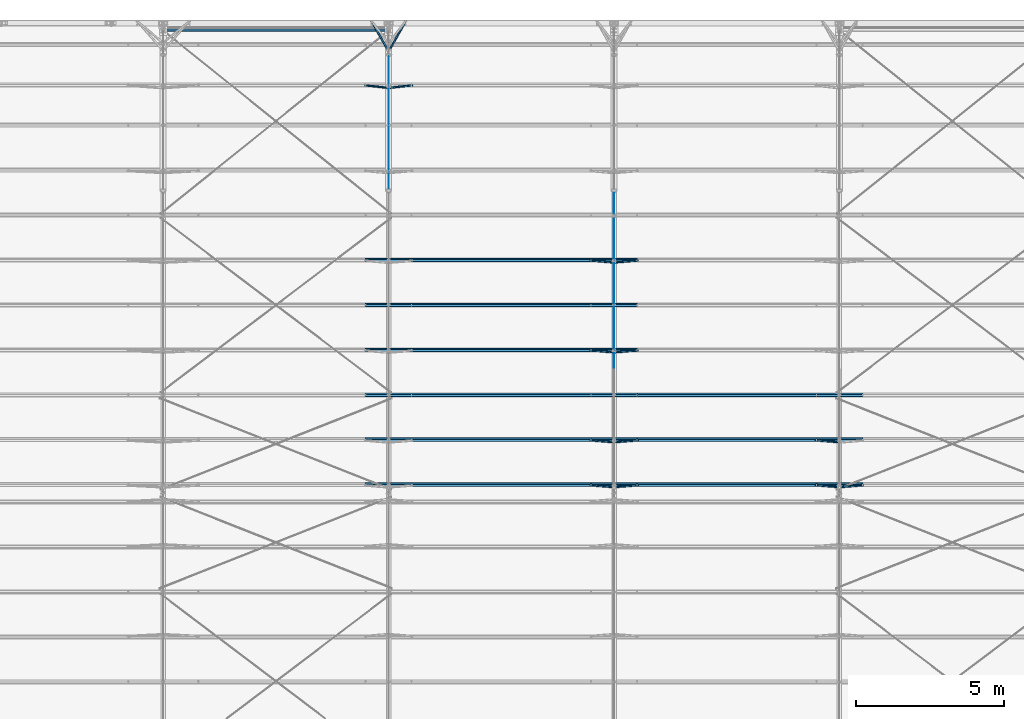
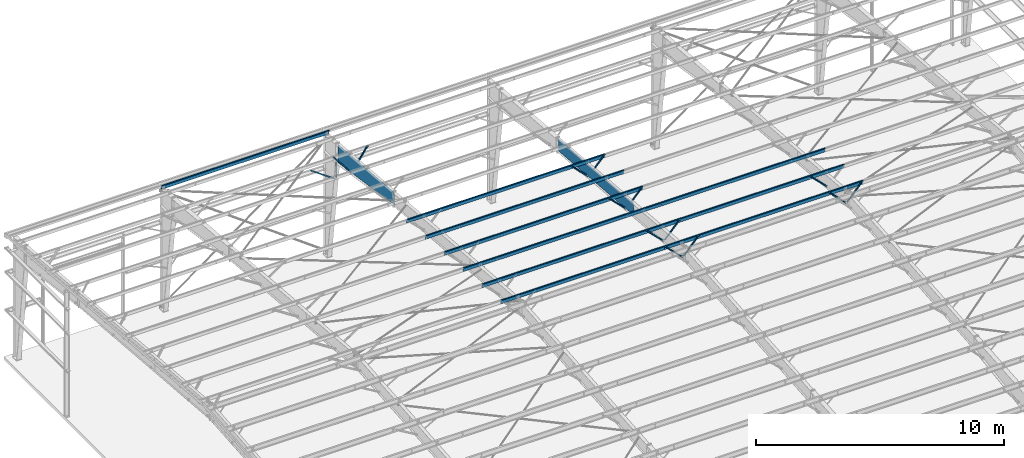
# One storey, part 14 of 185: 14 beams, 13 members, 27 elements without a shape of their own.
"""IFC2X3 building model written with IfcOpenShell, lengths in millimetres."""

from ifc_helpers import new_model, si_unit, frame, origin_with_axes, origin_2d_with_axis, place, context, subcontext, project, spatial, polyline, rectangle, outline, extrude, clip, halfspace, material, type_object, element, aggregate, save


model = new_model("IFC2X3")

# Units and contexts
model_context = context("Model", 3, precision=1e-05, world=origin_with_axes())
body_context = subcontext(model_context, "Body", "Model", "MODEL_VIEW")
ifc_project = project(units=[si_unit("LENGTHUNIT", "METRE", prefix="MILLI"), si_unit("AREAUNIT", "SQUARE_METRE"), si_unit("VOLUMEUNIT", "CUBIC_METRE"), si_unit("MASSUNIT", "GRAM", prefix="KILO"), si_unit("TIMEUNIT", "SECOND"), si_unit("PLANEANGLEUNIT", "RADIAN"), si_unit("SOLIDANGLEUNIT", "STERADIAN"), si_unit("THERMODYNAMICTEMPERATUREUNIT", "DEGREE_CELSIUS"), si_unit("LUMINOUSINTENSITYUNIT", "LUMEN")], contexts=[model_context])

# Site, building, storey
site_placement = place(None, origin_with_axes())
site = spatial("IfcSite", under=ifc_project, at=site_placement, Name="Undefined", CompositionType="ELEMENT")
building_placement = place(site_placement, origin_with_axes())
building = spatial("IfcBuilding", under=site, at=building_placement, Name="Undefined", CompositionType="ELEMENT")
storey_placement = place(building_placement, origin_with_axes())
storey = spatial("IfcBuildingStorey", under=building, at=storey_placement, Name="Undefined", CompositionType="ELEMENT", Elevation=0.0)

# Assembly, beam
assembly_1_placement = place(storey_placement, origin_with_axes())
assembly_1 = element("IfcElementAssembly", 1, at=assembly_1_placement, inside=storey, Name="Steel Assembly", AssemblyPlace="NOTDEFINED", PredefinedType="RIGID_FRAME")
ifc_material = material(Name="STEEL/55")
beam_type_1 = type_object("IfcBeamType", Name="8Z15", PredefinedType="NOTDEFINED")
beam_1_placement = place(assembly_1_placement, frame((22479.0, 23890.9879796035, 6670.13216897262), z_axis=(0.0, -0.0830454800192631, -0.996545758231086), x_axis=(-1.0, 0.0, 0.0)))
beam_1 = element("IfcBeam", 2, at=beam_1_placement, type_object=beam_type_1, material=ifc_material, Name="Purlin", ObjectType="8Z15", context=body_context, shape_type="Clipping", body=[
    clip(clip(extrude(outline(polyline([(-75.75, 87.0100021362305), (-63.5, 101.599998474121), (1.5900000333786, 101.599998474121), (1.5900000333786, -98.4199981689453), (62.0200004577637, -98.4199981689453), (73.3099975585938, -84.9700012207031), (75.7399978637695, -87.0100021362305), (63.5, -101.599998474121), (-1.5900000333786, -101.599998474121), (-1.5900000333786, 98.4199981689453), (-62.0200004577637, 98.4199981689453), (-73.3099975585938, 84.9700012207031), (-75.75, 87.0100021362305)])), frame((8420.1, 0.0, 0.0), z_axis=(-1.0, 0.0, 0.0), x_axis=(0.0, -1.0, 0.0)), (0.0, 0.0, 1.0), 9220.2), halfspace(frame((8420.1, 2.91402102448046e-09, -101.600000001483), z_axis=(-1.0, 0.0, 0.0), x_axis=(0.0, 0.0, 1.0)), True)), halfspace(frame((-800.1, 2.91402102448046e-09, -101.600000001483), z_axis=(-1.0, 0.0, 0.0), x_axis=(0.0, 0.0, 1.0)), False)),
])
aggregate(assembly_1, [beam_1])

assembly_2_placement = place(storey_placement, origin_with_axes())
assembly_2 = element("IfcElementAssembly", 3, at=assembly_2_placement, inside=storey, Name="Steel Assembly", AssemblyPlace="NOTDEFINED", PredefinedType="RIGID_FRAME")
beam_2_placement = place(assembly_2_placement, frame((22479.0, 22372.2522440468, 6796.69348052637), z_axis=(0.0, -0.0830454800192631, -0.996545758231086), x_axis=(-1.0, 0.0, 0.0)))
beam_2 = element("IfcBeam", 4, at=beam_2_placement, type_object=beam_type_1, material=ifc_material, Name="Purlin", ObjectType="8Z15", context=body_context, shape_type="Clipping", body=[
    clip(clip(extrude(outline(polyline([(-75.75, 87.0100021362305), (-63.5, 101.599998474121), (1.5900000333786, 101.599998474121), (1.5900000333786, -98.4199981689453), (62.0200004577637, -98.4199981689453), (73.3099975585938, -84.9700012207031), (75.7399978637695, -87.0100021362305), (63.5, -101.599998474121), (-1.5900000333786, -101.599998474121), (-1.5900000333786, 98.4199981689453), (-62.0200004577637, 98.4199981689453), (-73.3099975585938, 84.9700012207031), (-75.75, 87.0100021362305)])), frame((8420.1, 0.0, 0.0), z_axis=(-1.0, 0.0, 0.0), x_axis=(0.0, -1.0, 0.0)), (0.0, 0.0, 1.0), 9220.2), halfspace(frame((8420.1, 2.91402102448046e-09, -101.600000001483), z_axis=(-1.0, 0.0, 0.0), x_axis=(0.0, 0.0, 1.0)), True)), halfspace(frame((-800.1, 2.91402102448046e-09, -101.600000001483), z_axis=(-1.0, 0.0, 0.0), x_axis=(0.0, 0.0, 1.0)), False)),
])
aggregate(assembly_2, [beam_2])

assembly_3_placement = place(storey_placement, origin_with_axes())
assembly_3 = element("IfcElementAssembly", 5, at=assembly_3_placement, inside=storey, Name="Steel Assembly", AssemblyPlace="NOTDEFINED", PredefinedType="RIGID_FRAME")
beam_3_placement = place(assembly_3_placement, frame((22479.0, 20853.51650849, 6923.25479208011), z_axis=(0.0, -0.0830454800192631, -0.996545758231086), x_axis=(-1.0, 0.0, 0.0)))
beam_3 = element("IfcBeam", 6, at=beam_3_placement, type_object=beam_type_1, material=ifc_material, Name="Purlin", ObjectType="8Z15", context=body_context, shape_type="Clipping", body=[
    clip(clip(extrude(outline(polyline([(-75.75, 87.0100021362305), (-63.5, 101.599998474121), (1.5900000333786, 101.599998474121), (1.5900000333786, -98.4199981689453), (62.0200004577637, -98.4199981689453), (73.3099975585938, -84.9700012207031), (75.7399978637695, -87.0100021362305), (63.5, -101.599998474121), (-1.5900000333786, -101.599998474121), (-1.5900000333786, 98.4199981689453), (-62.0200004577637, 98.4199981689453), (-73.3099975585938, 84.9700012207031), (-75.75, 87.0100021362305)])), frame((8420.1, 0.0, 0.0), z_axis=(-1.0, 0.0, 0.0), x_axis=(0.0, -1.0, 0.0)), (0.0, 0.0, 1.0), 9220.2), halfspace(frame((8420.1, 2.91402102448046e-09, -101.600000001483), z_axis=(-1.0, 0.0, 0.0), x_axis=(0.0, 0.0, 1.0)), True)), halfspace(frame((-800.1, 2.91402102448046e-09, -101.600000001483), z_axis=(-1.0, 0.0, 0.0), x_axis=(0.0, 0.0, 1.0)), False)),
])
aggregate(assembly_3, [beam_3])

assembly_4_placement = place(storey_placement, origin_with_axes())
assembly_4 = element("IfcElementAssembly", 7, at=assembly_4_placement, inside=storey, Name="Steel Assembly", AssemblyPlace="NOTDEFINED", PredefinedType="RIGID_FRAME")
beam_4_placement = place(assembly_4_placement, frame((22479.0, 19334.7807729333, 7049.81610363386), z_axis=(0.0, -0.0830454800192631, -0.996545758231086), x_axis=(-1.0, 0.0, 0.0)))
beam_4 = element("IfcBeam", 8, at=beam_4_placement, type_object=beam_type_1, material=ifc_material, Name="Purlin", ObjectType="8Z15", context=body_context, shape_type="Clipping", body=[
    clip(clip(extrude(outline(polyline([(-75.75, 87.0100021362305), (-63.5, 101.599998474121), (1.5900000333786, 101.599998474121), (1.5900000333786, -98.4199981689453), (62.0200004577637, -98.4199981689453), (73.3099975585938, -84.9700012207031), (75.7399978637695, -87.0100021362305), (63.5, -101.599998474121), (-1.5900000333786, -101.599998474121), (-1.5900000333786, 98.4199981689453), (-62.0200004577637, 98.4199981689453), (-73.3099975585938, 84.9700012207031), (-75.75, 87.0100021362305)])), frame((8420.1, 0.0, 0.0), z_axis=(-1.0, 0.0, 0.0), x_axis=(0.0, -1.0, 0.0)), (0.0, 0.0, 1.0), 9220.2), halfspace(frame((8420.1, 2.91402102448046e-09, -101.600000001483), z_axis=(-1.0, 0.0, 0.0), x_axis=(0.0, 0.0, 1.0)), True)), halfspace(frame((-800.1, 2.91402102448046e-09, -101.600000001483), z_axis=(-1.0, 0.0, 0.0), x_axis=(0.0, 0.0, 1.0)), False)),
])
aggregate(assembly_4, [beam_4])

assembly_5_placement = place(storey_placement, origin_with_axes())
assembly_5 = element("IfcElementAssembly", 9, at=assembly_5_placement, inside=storey, Name="Steel Assembly", AssemblyPlace="NOTDEFINED", PredefinedType="RIGID_FRAME")
beam_5_placement = place(assembly_5_placement, frame((22479.0, 17816.0450373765, 7176.3774151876), z_axis=(0.0, -0.0830454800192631, -0.996545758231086), x_axis=(-1.0, 0.0, 0.0)))
beam_5 = element("IfcBeam", 10, at=beam_5_placement, type_object=beam_type_1, material=ifc_material, Name="Purlin", ObjectType="8Z15", context=body_context, shape_type="Clipping", body=[
    clip(clip(extrude(outline(polyline([(-75.75, 87.0100021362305), (-63.5, 101.599998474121), (1.5900000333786, 101.599998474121), (1.5900000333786, -98.4199981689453), (62.0200004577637, -98.4199981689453), (73.3099975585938, -84.9700012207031), (75.7399978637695, -87.0100021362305), (63.5, -101.599998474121), (-1.5900000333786, -101.599998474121), (-1.5900000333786, 98.4199981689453), (-62.0200004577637, 98.4199981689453), (-73.3099975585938, 84.9700012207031), (-75.75, 87.0100021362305)])), frame((8420.1, 0.0, 0.0), z_axis=(-1.0, 0.0, 0.0), x_axis=(0.0, -1.0, 0.0)), (0.0, 0.0, 1.0), 9220.2), halfspace(frame((8420.1, 2.91402102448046e-09, -101.600000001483), z_axis=(-1.0, 0.0, 0.0), x_axis=(0.0, 0.0, 1.0)), True)), halfspace(frame((-800.1, 2.91402102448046e-09, -101.600000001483), z_axis=(-1.0, 0.0, 0.0), x_axis=(0.0, 0.0, 1.0)), False)),
])
aggregate(assembly_5, [beam_5])

assembly_6_placement = place(storey_placement, origin_with_axes())
assembly_6 = element("IfcElementAssembly", 11, at=assembly_6_placement, inside=storey, Name="Steel Assembly", AssemblyPlace="NOTDEFINED", PredefinedType="RIGID_FRAME")
beam_6_placement = place(assembly_6_placement, frame((22479.0, 16297.3093018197, 7302.93872674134), z_axis=(0.0, -0.0830454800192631, -0.996545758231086), x_axis=(-1.0, 0.0, 0.0)))
beam_6 = element("IfcBeam", 12, at=beam_6_placement, type_object=beam_type_1, material=ifc_material, Name="Purlin", ObjectType="8Z15", context=body_context, shape_type="Clipping", body=[
    clip(clip(extrude(outline(polyline([(-75.75, 87.0100021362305), (-63.5, 101.599998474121), (1.5900000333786, 101.599998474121), (1.5900000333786, -98.4199981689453), (62.0200004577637, -98.4199981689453), (73.3099975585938, -84.9700012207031), (75.7399978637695, -87.0100021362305), (63.5, -101.599998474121), (-1.5900000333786, -101.599998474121), (-1.5900000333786, 98.4199981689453), (-62.0200004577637, 98.4199981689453), (-73.3099975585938, 84.9700012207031), (-75.75, 87.0100021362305)])), frame((8420.1, 0.0, 0.0), z_axis=(-1.0, 0.0, 0.0), x_axis=(0.0, -1.0, 0.0)), (0.0, 0.0, 1.0), 9220.2), halfspace(frame((8420.1, 2.91402102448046e-09, -101.600000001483), z_axis=(-1.0, 0.0, 0.0), x_axis=(0.0, 0.0, 1.0)), True)), halfspace(frame((-800.1, 2.91402102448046e-09, -101.600000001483), z_axis=(-1.0, 0.0, 0.0), x_axis=(0.0, 0.0, 1.0)), False)),
])
aggregate(assembly_6, [beam_6])

assembly_7_placement = place(storey_placement, origin_with_axes())
assembly_7 = element("IfcElementAssembly", 13, at=assembly_7_placement, inside=storey, Name="Steel Assembly", AssemblyPlace="NOTDEFINED", PredefinedType="RIGID_FRAME")
beam_7_placement = place(assembly_7_placement, frame((30099.0, 19334.7807729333, 7049.81610363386), z_axis=(0.0, -0.0830454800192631, -0.996545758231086), x_axis=(-1.0, 0.0, 0.0)))
beam_7 = element("IfcBeam", 14, at=beam_7_placement, type_object=beam_type_1, material=ifc_material, Name="Purlin", ObjectType="8Z15", context=body_context, shape_type="Clipping", body=[
    clip(clip(extrude(outline(polyline([(-75.75, 87.0100021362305), (-63.5, 101.599998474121), (1.5900000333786, 101.599998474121), (1.5900000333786, -98.4199981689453), (62.0200004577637, -98.4199981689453), (73.3099975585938, -84.9700012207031), (75.7399978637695, -87.0100021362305), (63.5, -101.599998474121), (-1.5900000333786, -101.599998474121), (-1.5900000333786, 98.4199981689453), (-62.0200004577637, 98.4199981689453), (-73.3099975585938, 84.9700012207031), (-75.75, 87.0100021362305)])), frame((8420.1, 0.0, 0.0), z_axis=(-1.0, 0.0, 0.0), x_axis=(0.0, -1.0, 0.0)), (0.0, 0.0, 1.0), 9220.2), halfspace(frame((8420.1, 2.91402102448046e-09, -101.600000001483), z_axis=(-1.0, 0.0, 0.0), x_axis=(0.0, 0.0, 1.0)), True)), halfspace(frame((-800.1, 2.91402102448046e-09, -101.600000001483), z_axis=(-1.0, 0.0, 0.0), x_axis=(0.0, 0.0, 1.0)), False)),
])
aggregate(assembly_7, [beam_7])

assembly_8_placement = place(storey_placement, origin_with_axes())
assembly_8 = element("IfcElementAssembly", 15, at=assembly_8_placement, inside=storey, Name="Steel Assembly", AssemblyPlace="NOTDEFINED", PredefinedType="RIGID_FRAME")
beam_8_placement = place(assembly_8_placement, frame((30099.0, 17816.0450373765, 7176.3774151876), z_axis=(0.0, -0.0830454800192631, -0.996545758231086), x_axis=(-1.0, 0.0, 0.0)))
beam_8 = element("IfcBeam", 16, at=beam_8_placement, type_object=beam_type_1, material=ifc_material, Name="Purlin", ObjectType="8Z15", context=body_context, shape_type="Clipping", body=[
    clip(clip(extrude(outline(polyline([(-75.75, 87.0100021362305), (-63.5, 101.599998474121), (1.5900000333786, 101.599998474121), (1.5900000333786, -98.4199981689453), (62.0200004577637, -98.4199981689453), (73.3099975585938, -84.9700012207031), (75.7399978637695, -87.0100021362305), (63.5, -101.599998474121), (-1.5900000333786, -101.599998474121), (-1.5900000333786, 98.4199981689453), (-62.0200004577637, 98.4199981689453), (-73.3099975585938, 84.9700012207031), (-75.75, 87.0100021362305)])), frame((8420.1, 0.0, 0.0), z_axis=(-1.0, 0.0, 0.0), x_axis=(0.0, -1.0, 0.0)), (0.0, 0.0, 1.0), 9220.2), halfspace(frame((8420.1, 2.91402102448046e-09, -101.600000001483), z_axis=(-1.0, 0.0, 0.0), x_axis=(0.0, 0.0, 1.0)), True)), halfspace(frame((-800.1, 2.91402102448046e-09, -101.600000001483), z_axis=(-1.0, 0.0, 0.0), x_axis=(0.0, 0.0, 1.0)), False)),
])
aggregate(assembly_8, [beam_8])

assembly_9_placement = place(storey_placement, origin_with_axes())
assembly_9 = element("IfcElementAssembly", 17, at=assembly_9_placement, inside=storey, Name="Steel Assembly", AssemblyPlace="NOTDEFINED", PredefinedType="RIGID_FRAME")
beam_9_placement = place(assembly_9_placement, frame((30099.0, 16297.3093018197, 7302.93872674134), z_axis=(0.0, -0.0830454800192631, -0.996545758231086), x_axis=(-1.0, 0.0, 0.0)))
beam_9 = element("IfcBeam", 18, at=beam_9_placement, type_object=beam_type_1, material=ifc_material, Name="Purlin", ObjectType="8Z15", context=body_context, shape_type="Clipping", body=[
    clip(clip(extrude(outline(polyline([(-75.75, 87.0100021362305), (-63.5, 101.599998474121), (1.5900000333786, 101.599998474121), (1.5900000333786, -98.4199981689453), (62.0200004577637, -98.4199981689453), (73.3099975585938, -84.9700012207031), (75.7399978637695, -87.0100021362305), (63.5, -101.599998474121), (-1.5900000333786, -101.599998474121), (-1.5900000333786, 98.4199981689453), (-62.0200004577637, 98.4199981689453), (-73.3099975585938, 84.9700012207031), (-75.75, 87.0100021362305)])), frame((8420.1, 0.0, 0.0), z_axis=(-1.0, 0.0, 0.0), x_axis=(0.0, -1.0, 0.0)), (0.0, 0.0, 1.0), 9220.2), halfspace(frame((8420.1, 2.91402102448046e-09, -101.600000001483), z_axis=(-1.0, 0.0, 0.0), x_axis=(0.0, 0.0, 1.0)), True)), halfspace(frame((-800.1, 2.91402102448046e-09, -101.600000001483), z_axis=(-1.0, 0.0, 0.0), x_axis=(0.0, 0.0, 1.0)), False)),
])
aggregate(assembly_9, [beam_9])

assembly_10_placement = place(storey_placement, origin_with_axes())
assembly_10 = element("IfcElementAssembly", 19, at=assembly_10_placement, inside=storey, Name="Steel Assembly", AssemblyPlace="NOTDEFINED", PredefinedType="RIGID_FRAME")
beam_type_2 = type_object("IfcBeamType", Name="FB-", PredefinedType="NOTDEFINED")
beam_10_placement = place(assembly_10_placement, frame((14915.5017799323, 30986.7973037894, 4165.6), z_axis=(-0.871364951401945, 0.490635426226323, 0.0), x_axis=(0.490635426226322, 0.871364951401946, 0.0)))
beam_10 = element("IfcBeam", 20, at=beam_10_placement, type_object=beam_type_2, material=ifc_material, Name="2X2 FLANGE BRACE X 60", ObjectType="FB-", context=body_context, shape_type="SweptSolid", body=[
    extrude(outline(polyline([(1.5900000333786, 1.59000003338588), (50.7999992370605, 1.59000003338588), (50.7999992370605, 7.27595761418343e-12), (0.0, 0.0), (0.0, 50.7999992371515), (1.5900000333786, 50.7999992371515), (1.5900000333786, 1.59000003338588)])), frame((1120.16580962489, 9.09494701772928e-13, 0.0), z_axis=(-1.0, 0.0, 0.0), x_axis=(0.0, -1.0, 0.0)), (0.0, 0.0, 1.0), 1120.2),
])
aggregate(assembly_10, [beam_10])

assembly_11_placement = place(storey_placement, origin_with_axes())
assembly_11 = element("IfcElementAssembly", 21, at=assembly_11_placement, inside=storey, Name="Steel Assembly", AssemblyPlace="NOTDEFINED", PredefinedType="RIGID_FRAME")
beam_11_placement = place(assembly_11_placement, frame((14802.498220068, 30986.7973037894, 4165.59999999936), z_axis=(0.0, 0.0, 1.0), x_axis=(-0.490635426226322, 0.871364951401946, 0.0)))
beam_11 = element("IfcBeam", 22, at=beam_11_placement, type_object=beam_type_2, material=ifc_material, Name="2X2 FLANGE BRACE X 60", ObjectType="FB-", context=body_context, shape_type="SweptSolid", body=[
    extrude(outline(polyline([(1.5900000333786, 1.59000003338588), (50.7999992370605, 1.59000003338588), (50.7999992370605, 7.27595761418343e-12), (0.0, 0.0), (0.0, 50.7999992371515), (1.5900000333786, 50.7999992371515), (1.5900000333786, 1.59000003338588)])), frame((1120.16580962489, 9.09494701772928e-13, 0.0), z_axis=(-1.0, 0.0, 0.0), x_axis=(0.0, -1.0, 0.0)), (0.0, 0.0, 1.0), 1120.2),
])
aggregate(assembly_11, [beam_11])

# Assembly, member
assembly_12_placement = place(storey_placement, origin_with_axes())
assembly_12 = element("IfcElementAssembly", 23, at=assembly_12_placement, inside=storey, Name="Steel Assembly", AssemblyPlace="NOTDEFINED", PredefinedType="RIGID_FRAME")
member_type = type_object("IfcMemberType", Name="FB-", PredefinedType="NOTDEFINED")
member_1_placement = place(assembly_12_placement, frame((22524.6857108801, 23833.292704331, 5977.78886512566), z_axis=(-0.697745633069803, 0.0594892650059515, 0.713871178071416), x_axis=(0.716345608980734, 0.0579446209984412, 0.6953354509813)))
member_1 = element("IfcMember", 24, at=member_1_placement, type_object=member_type, material=ifc_material, Name="2X2 FLANGE BRACE X 48", ObjectType="FB-", context=body_context, shape_type="SweptSolid", body=[
    extrude(outline(polyline([(1.5900000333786, 1.59000003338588), (50.7999992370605, 1.59000003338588), (50.7999992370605, 7.27595761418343e-12), (0.0, 0.0), (0.0, 50.7999992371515), (1.5900000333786, 50.7999992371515), (1.5900000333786, 1.59000003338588)])), frame((1067.82563693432, 1.82639893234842e-12, 1.75971317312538e-12), z_axis=(-1.0, 0.0, 0.0), x_axis=(0.0, -1.0, 0.0)), (0.0, 0.0, 1.0), 1067.8),
])
aggregate(assembly_12, [member_1])

assembly_13_placement = place(storey_placement, origin_with_axes())
assembly_13 = element("IfcElementAssembly", 25, at=assembly_13_placement, inside=storey, Name="Steel Assembly", AssemblyPlace="NOTDEFINED", PredefinedType="RIGID_FRAME")
member_2_placement = place(assembly_13_placement, frame((22524.6857108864, 20795.8212332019, 6230.91148772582), z_axis=(-0.697745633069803, 0.0594892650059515, 0.713871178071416), x_axis=(0.716345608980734, 0.0579446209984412, 0.6953354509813)))
member_2 = element("IfcMember", 26, at=member_2_placement, type_object=member_type, material=ifc_material, Name="2X2 FLANGE BRACE X 48", ObjectType="FB-", context=body_context, shape_type="SweptSolid", body=[
    extrude(outline(polyline([(1.5900000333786, 1.59000003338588), (50.7999992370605, 1.59000003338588), (50.7999992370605, 7.27595761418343e-12), (0.0, 0.0), (0.0, 50.7999992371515), (1.5900000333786, 50.7999992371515), (1.5900000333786, 1.59000003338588)])), frame((1067.82563693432, 1.82639893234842e-12, 1.75971317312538e-12), z_axis=(-1.0, 0.0, 0.0), x_axis=(0.0, -1.0, 0.0)), (0.0, 0.0, 1.0), 1067.8),
])
aggregate(assembly_13, [member_2])

assembly_14_placement = place(storey_placement, origin_with_axes())
assembly_14 = element("IfcElementAssembly", 27, at=assembly_14_placement, inside=storey, Name="Steel Assembly", AssemblyPlace="NOTDEFINED", PredefinedType="RIGID_FRAME")
member_3_placement = place(assembly_14_placement, frame((22524.6857108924, 17758.3497620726, 6484.0341103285), z_axis=(-0.697745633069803, 0.0594892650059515, 0.713871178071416), x_axis=(0.716345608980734, 0.0579446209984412, 0.6953354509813)))
member_3 = element("IfcMember", 28, at=member_3_placement, type_object=member_type, material=ifc_material, Name="2X2 FLANGE BRACE X 48", ObjectType="FB-", context=body_context, shape_type="SweptSolid", body=[
    extrude(outline(polyline([(1.5900000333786, 1.59000003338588), (50.7999992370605, 1.59000003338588), (50.7999992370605, 7.27595761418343e-12), (0.0, 0.0), (0.0, 50.7999992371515), (1.5900000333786, 50.7999992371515), (1.5900000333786, 1.59000003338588)])), frame((1067.82563693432, 1.82639893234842e-12, 1.75971317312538e-12), z_axis=(-1.0, 0.0, 0.0), x_axis=(0.0, -1.0, 0.0)), (0.0, 0.0, 1.0), 1067.8),
])
aggregate(assembly_14, [member_3])

assembly_15_placement = place(storey_placement, origin_with_axes())
assembly_15 = element("IfcElementAssembly", 29, at=assembly_15_placement, inside=storey, Name="Steel Assembly", AssemblyPlace="NOTDEFINED", PredefinedType="RIGID_FRAME")
member_4_placement = place(assembly_15_placement, frame((22524.6857108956, 16239.6140265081, 6610.59542162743), z_axis=(-0.697745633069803, 0.0594892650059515, 0.713871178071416), x_axis=(0.716345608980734, 0.0579446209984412, 0.6953354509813)))
member_4 = element("IfcMember", 30, at=member_4_placement, type_object=member_type, material=ifc_material, Name="2X2 FLANGE BRACE X 48", ObjectType="FB-", context=body_context, shape_type="SweptSolid", body=[
    extrude(outline(polyline([(1.5900000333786, 1.59000003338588), (50.7999992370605, 1.59000003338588), (50.7999992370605, 7.27595761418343e-12), (0.0, 0.0), (0.0, 50.7999992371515), (1.5900000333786, 50.7999992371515), (1.5900000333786, 1.59000003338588)])), frame((1067.82563693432, 1.82639893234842e-12, 1.75971317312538e-12), z_axis=(-1.0, 0.0, 0.0), x_axis=(0.0, -1.0, 0.0)), (0.0, 0.0, 1.0), 1067.8),
])
aggregate(assembly_15, [member_4])

assembly_16_placement = place(storey_placement, origin_with_axes())
assembly_16 = element("IfcElementAssembly", 31, at=assembly_16_placement, inside=storey, Name="Steel Assembly", AssemblyPlace="NOTDEFINED", PredefinedType="RIGID_FRAME")
member_5_placement = place(assembly_16_placement, frame((30144.6857108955, 16239.6140265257, 6610.59542169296), z_axis=(-0.697745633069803, 0.0594892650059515, 0.713871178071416), x_axis=(0.716345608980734, 0.0579446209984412, 0.6953354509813)))
member_5 = element("IfcMember", 32, at=member_5_placement, type_object=member_type, material=ifc_material, Name="2X2 FLANGE BRACE X 48", ObjectType="FB-", context=body_context, shape_type="SweptSolid", body=[
    extrude(outline(polyline([(1.5900000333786, 1.59000003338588), (50.7999992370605, 1.59000003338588), (50.7999992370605, 7.27595761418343e-12), (0.0, 0.0), (0.0, 50.7999992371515), (1.5900000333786, 50.7999992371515), (1.5900000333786, 1.59000003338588)])), frame((1067.82563693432, 1.82639893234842e-12, 1.75971317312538e-12), z_axis=(-1.0, 0.0, 0.0), x_axis=(0.0, -1.0, 0.0)), (0.0, 0.0, 1.0), 1067.8),
])
aggregate(assembly_16, [member_5])

assembly_17_placement = place(storey_placement, origin_with_axes())
assembly_17 = element("IfcElementAssembly", 33, at=assembly_17_placement, inside=storey, Name="Steel Assembly", AssemblyPlace="NOTDEFINED", PredefinedType="RIGID_FRAME")
member_6_placement = place(assembly_17_placement, frame((22433.3142891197, 23833.2927043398, 5977.78886512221), z_axis=(0.0, -0.996545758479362, 0.0830454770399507), x_axis=(-0.716345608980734, 0.0579446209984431, 0.6953354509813)))
member_6 = element("IfcMember", 34, at=member_6_placement, type_object=member_type, material=ifc_material, Name="2X2 FLANGE BRACE X 48", ObjectType="FB-", context=body_context, shape_type="SweptSolid", body=[
    extrude(outline(polyline([(1.5900000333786, 1.59000003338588), (50.7999992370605, 1.59000003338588), (50.7999992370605, 7.27595761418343e-12), (0.0, 0.0), (0.0, 50.7999992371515), (1.5900000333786, 50.7999992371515), (1.5900000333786, 1.59000003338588)])), frame((1067.82563693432, 1.82639893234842e-12, 1.75971317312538e-12), z_axis=(-1.0, 0.0, 0.0), x_axis=(0.0, -1.0, 0.0)), (0.0, 0.0, 1.0), 1067.8),
])
aggregate(assembly_17, [member_6])

assembly_18_placement = place(storey_placement, origin_with_axes())
assembly_18 = element("IfcElementAssembly", 35, at=assembly_18_placement, inside=storey, Name="Steel Assembly", AssemblyPlace="NOTDEFINED", PredefinedType="RIGID_FRAME")
member_7_placement = place(assembly_18_placement, frame((22433.3142891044, 16239.614026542, 6610.59542160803), z_axis=(0.0, -0.996545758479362, 0.0830454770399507), x_axis=(-0.716345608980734, 0.0579446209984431, 0.6953354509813)))
member_7 = element("IfcMember", 36, at=member_7_placement, type_object=member_type, material=ifc_material, Name="2X2 FLANGE BRACE X 48", ObjectType="FB-", context=body_context, shape_type="SweptSolid", body=[
    extrude(outline(polyline([(1.5900000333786, 1.59000003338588), (50.7999992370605, 1.59000003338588), (50.7999992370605, 7.27595761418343e-12), (0.0, 0.0), (0.0, 50.7999992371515), (1.5900000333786, 50.7999992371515), (1.5900000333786, 1.59000003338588)])), frame((1067.82563693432, 1.82639893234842e-12, 1.75971317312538e-12), z_axis=(-1.0, 0.0, 0.0), x_axis=(0.0, -1.0, 0.0)), (0.0, 0.0, 1.0), 1067.8),
])
aggregate(assembly_18, [member_7])

assembly_19_placement = place(storey_placement, origin_with_axes())
assembly_19 = element("IfcElementAssembly", 37, at=assembly_19_placement, inside=storey, Name="Steel Assembly", AssemblyPlace="NOTDEFINED", PredefinedType="RIGID_FRAME")
member_8_placement = place(assembly_19_placement, frame((22433.3142891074, 17758.3497621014, 6484.03411031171), z_axis=(0.0, -0.996545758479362, 0.0830454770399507), x_axis=(-0.716345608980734, 0.0579446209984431, 0.6953354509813)))
member_8 = element("IfcMember", 38, at=member_8_placement, type_object=member_type, material=ifc_material, Name="2X2 FLANGE BRACE X 48", ObjectType="FB-", context=body_context, shape_type="SweptSolid", body=[
    extrude(outline(polyline([(1.5900000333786, 1.59000003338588), (50.7999992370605, 1.59000003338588), (50.7999992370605, 7.27595761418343e-12), (0.0, 0.0), (0.0, 50.7999992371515), (1.5900000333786, 50.7999992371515), (1.5900000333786, 1.59000003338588)])), frame((1067.82563693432, 1.82639893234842e-12, 1.75971317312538e-12), z_axis=(-1.0, 0.0, 0.0), x_axis=(0.0, -1.0, 0.0)), (0.0, 0.0, 1.0), 1067.8),
])
aggregate(assembly_19, [member_8])

assembly_20_placement = place(storey_placement, origin_with_axes())
assembly_20 = element("IfcElementAssembly", 39, at=assembly_20_placement, inside=storey, Name="Steel Assembly", AssemblyPlace="NOTDEFINED", PredefinedType="RIGID_FRAME")
member_9_placement = place(assembly_20_placement, frame((22433.3142891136, 20795.8212332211, 6230.91148771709), z_axis=(0.0, -0.996545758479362, 0.0830454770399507), x_axis=(-0.716345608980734, 0.0579446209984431, 0.6953354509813)))
member_9 = element("IfcMember", 40, at=member_9_placement, type_object=member_type, material=ifc_material, Name="2X2 FLANGE BRACE X 48", ObjectType="FB-", context=body_context, shape_type="SweptSolid", body=[
    extrude(outline(polyline([(1.5900000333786, 1.59000003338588), (50.7999992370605, 1.59000003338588), (50.7999992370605, 7.27595761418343e-12), (0.0, 0.0), (0.0, 50.7999992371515), (1.5900000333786, 50.7999992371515), (1.5900000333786, 1.59000003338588)])), frame((1067.82563693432, 1.82639893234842e-12, 1.75971317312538e-12), z_axis=(-1.0, 0.0, 0.0), x_axis=(0.0, -1.0, 0.0)), (0.0, 0.0, 1.0), 1067.8),
])
aggregate(assembly_20, [member_9])

assembly_21_placement = place(storey_placement, origin_with_axes())
assembly_21 = element("IfcElementAssembly", 41, at=assembly_21_placement, inside=storey, Name="Steel Assembly", AssemblyPlace="NOTDEFINED", PredefinedType="RIGID_FRAME")
member_10_placement = place(assembly_21_placement, frame((14910.4101776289, 29737.0414636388, 5252.35243777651), z_axis=(-0.791478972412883, 0.0507570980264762, 0.609085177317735), x_axis=(0.611196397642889, 0.065728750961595, 0.78874501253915)))
member_10 = element("IfcMember", 42, at=member_10_placement, type_object=member_type, material=ifc_material, Name="2X2 FLANGE BRACE X 60", ObjectType="FB-", context=body_context, shape_type="SweptSolid", body=[
    extrude(outline(polyline([(1.5900000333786, 1.59000003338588), (50.7999992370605, 1.59000003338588), (50.7999992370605, 7.27595761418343e-12), (0.0, 0.0), (0.0, 50.7999992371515), (1.5900000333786, 50.7999992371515), (1.5900000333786, 1.59000003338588)])), frame((1241.69216231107, 1.72319403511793e-14, 8.40566940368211e-13), z_axis=(-1.0, 0.0, 0.0), x_axis=(0.0, -1.0, 0.0)), (0.0, 0.0, 1.0), 1241.7),
])
aggregate(assembly_21, [member_10])

assembly_22_placement = place(storey_placement, origin_with_axes())
assembly_22 = element("IfcElementAssembly", 43, at=assembly_22_placement, inside=storey, Name="Steel Assembly", AssemblyPlace="NOTDEFINED", PredefinedType="RIGID_FRAME")
member_11_placement = place(assembly_22_placement, frame((14807.5898223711, 29737.0414636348, 5252.35243777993), z_axis=(0.0, -0.996545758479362, 0.0830454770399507), x_axis=(-0.611196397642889, 0.065728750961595, 0.78874501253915)))
member_11 = element("IfcMember", 44, at=member_11_placement, type_object=member_type, material=ifc_material, Name="2X2 FLANGE BRACE X 60", ObjectType="FB-", context=body_context, shape_type="SweptSolid", body=[
    extrude(outline(polyline([(1.5900000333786, 1.59000003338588), (50.7999992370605, 1.59000003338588), (50.7999992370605, 7.27595761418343e-12), (0.0, 0.0), (0.0, 50.7999992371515), (1.5900000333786, 50.7999992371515), (1.5900000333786, 1.59000003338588)])), frame((1241.69216231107, 1.72319403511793e-14, 8.40566940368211e-13), z_axis=(-1.0, 0.0, 0.0), x_axis=(0.0, -1.0, 0.0)), (0.0, 0.0, 1.0), 1241.7),
])
aggregate(assembly_22, [member_11])

assembly_23_placement = place(storey_placement, origin_with_axes())
assembly_23 = element("IfcElementAssembly", 45, at=assembly_23_placement, inside=storey, Name="Steel Assembly", AssemblyPlace="NOTDEFINED", PredefinedType="RIGID_FRAME")
member_12_placement = place(assembly_23_placement, frame((30053.3142891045, 16239.6140265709, 6610.59542171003), z_axis=(0.0, -0.996545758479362, 0.0830454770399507), x_axis=(-0.716345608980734, 0.0579446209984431, 0.6953354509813)))
member_12 = element("IfcMember", 46, at=member_12_placement, type_object=member_type, material=ifc_material, Name="2X2 FLANGE BRACE X 48", ObjectType="FB-", context=body_context, shape_type="SweptSolid", body=[
    extrude(outline(polyline([(1.5900000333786, 1.59000003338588), (50.7999992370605, 1.59000003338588), (50.7999992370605, 7.27595761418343e-12), (0.0, 0.0), (0.0, 50.7999992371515), (1.5900000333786, 50.7999992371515), (1.5900000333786, 1.59000003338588)])), frame((1067.82563693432, 1.82639893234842e-12, 1.75971317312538e-12), z_axis=(-1.0, 0.0, 0.0), x_axis=(0.0, -1.0, 0.0)), (0.0, 0.0, 1.0), 1067.8),
])
aggregate(assembly_23, [member_12])

assembly_24_placement = place(storey_placement, origin_with_axes())
assembly_24 = element("IfcElementAssembly", 47, at=assembly_24_placement, inside=storey, Name="Steel Assembly", AssemblyPlace="NOTDEFINED", PredefinedType="RIGID_FRAME")
member_13_placement = place(assembly_24_placement, frame((30053.3142891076, 17758.3497621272, 6484.0341103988), z_axis=(0.0, -0.996545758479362, 0.0830454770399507), x_axis=(-0.716345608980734, 0.0579446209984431, 0.6953354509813)))
member_13 = element("IfcMember", 48, at=member_13_placement, type_object=member_type, material=ifc_material, Name="2X2 FLANGE BRACE X 48", ObjectType="FB-", context=body_context, shape_type="SweptSolid", body=[
    extrude(outline(polyline([(1.5900000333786, 1.59000003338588), (50.7999992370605, 1.59000003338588), (50.7999992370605, 7.27595761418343e-12), (0.0, 0.0), (0.0, 50.7999992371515), (1.5900000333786, 50.7999992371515), (1.5900000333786, 1.59000003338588)])), frame((1067.82563693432, 1.82639893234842e-12, 1.75971317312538e-12), z_axis=(-1.0, 0.0, 0.0), x_axis=(0.0, -1.0, 0.0)), (0.0, 0.0, 1.0), 1067.8),
])
aggregate(assembly_24, [member_13])

# Assembly, beam
assembly_25_placement = place(storey_placement, origin_with_axes())
assembly_25 = element("IfcElementAssembly", 49, at=assembly_25_placement, inside=storey, Name="Steel Assembly", AssemblyPlace="NOTDEFINED", PredefinedType="RIGID_FRAME")
beam_type_3 = type_object("IfcBeamType", Name="8Z12", PredefinedType="NOTDEFINED")
beam_12_placement = place(assembly_25_placement, frame((14859.0, 31691.9108046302, 6020.05526556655), z_axis=(0.0, -0.0830454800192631, -0.996545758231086), x_axis=(-1.0, 0.0, 0.0)))
beam_12 = element("IfcBeam", 50, at=beam_12_placement, type_object=beam_type_3, material=ifc_material, Name="Purlin", ObjectType="8Z12", context=body_context, shape_type="Clipping", body=[
    clip(clip(extrude(outline(polyline([(-62.0200004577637, 98.4199981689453), (-73.3099975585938, 84.9700012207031), (-75.75, 87.0100021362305), (-63.5, 101.599998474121), (1.5900000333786, 101.599998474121), (1.5900000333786, -98.4199981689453), (62.0200004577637, -98.4199981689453), (73.3099975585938, -84.9700012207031), (75.7399978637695, -87.0100021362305), (63.5, -101.599998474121), (-1.5900000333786, -101.599998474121), (-1.5900000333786, 98.4199981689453), (-62.0200004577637, 98.4199981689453)])), frame((7708.9, 0.0, 0.0), z_axis=(-1.0, 0.0, 0.0), x_axis=(0.0, -1.0, 0.0)), (0.0, 0.0, 1.0), 7797.8), halfspace(frame((7708.9, 8.84028850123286e-10, -101.600000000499), z_axis=(-1.0, 0.0, 0.0), x_axis=(0.0, 0.0, -1.0)), True)), halfspace(frame((-88.8999999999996, 8.84028850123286e-10, -101.600000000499), z_axis=(-1.0, 0.0, 0.0), x_axis=(0.0, 0.0, 1.0)), False)),
])
aggregate(assembly_25, [beam_12])

assembly_26_placement = place(storey_placement, origin_with_axes())
assembly_26 = element("IfcElementAssembly", 51, at=assembly_26_placement, inside=storey, Name="Steel Assembly", AssemblyPlace="NOTDEFINED", PredefinedType="RIGID_FRAME")
beam_type_4 = type_object("IfcBeamType", Name="PL3/16\"X36\"", PredefinedType="NOTDEFINED")
beam_13_placement = place(assembly_26_placement, frame((14859.0, 30859.3851615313, 5520.71772750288), z_axis=(0.0, 0.0830454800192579, 0.996545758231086), x_axis=(0.0, -0.996545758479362, 0.0830454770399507)))
beam_13 = element("IfcBeam", 52, at=beam_13_placement, type_object=beam_type_4, material=ifc_material, Name="Web", ObjectType="PL3/16\"X36\"", context=body_context, shape_type="Clipping", body=[
    clip(clip(clip(extrude(rectangle(XDim=4.762, YDim=914.4, at=origin_2d_with_axis()), frame((4635.45841786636, 0.0, 0.0), z_axis=(-1.0, 0.0, 0.0), x_axis=(0.0, -1.0, 0.0)), (0.0, 0.0, 1.0), 4686.9), halfspace(frame((-0.0865308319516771, 2.38124999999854, -457.199999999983), z_axis=(0.0654332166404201, 0.0, -0.99785695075), x_axis=(0.0, -1.0, 0.0)), False)), halfspace(frame((4635.45841788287, 0.0, 457.199999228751), z_axis=(-1.0, 0.0, 0.0), x_axis=(0.0, -1.0, 0.0)), True)), halfspace(frame((76.004485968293, 0.0, 455.892199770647), z_axis=(-0.996545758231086, 0.0, 0.0830454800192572), x_axis=(0.0, -1.0, 0.0)), False)),
])
aggregate(assembly_26, [beam_13])

assembly_27_placement = place(storey_placement, origin_with_axes())
assembly_27 = element("IfcElementAssembly", 53, at=assembly_27_placement, inside=storey, Name="Steel Assembly", AssemblyPlace="NOTDEFINED", PredefinedType="RIGID_FRAME")
beam_type_5 = type_object("IfcBeamType", Name="PL1/8\"X24\"", PredefinedType="NOTDEFINED")
beam_14_placement = place(assembly_27_placement, frame((22479.0, 26230.320078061, 6059.4014033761), z_axis=(0.0, 0.0830454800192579, 0.996545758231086), x_axis=(0.0, -0.996545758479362, 0.0830454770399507)))
beam_14 = element("IfcBeam", 54, at=beam_14_placement, type_object=beam_type_5, material=ifc_material, Name="Web", ObjectType="PL1/8\"X24\"", context=body_context, shape_type="Clipping", body=[
    clip(extrude(rectangle(XDim=3.4163, YDim=609.59999999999, at=origin_2d_with_axis()), frame((6095.99999991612, 0.0, -8.45989944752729e-14), z_axis=(-1.0, 0.0, 0.0), x_axis=(0.0, -1.0, 0.0)), (0.0, 0.0, 1.0), 6096.0), halfspace(frame((2.96531652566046e-08, 0.0, 304.799999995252), z_axis=(-1.0, 0.0, 0.0), x_axis=(0.0, -1.0, 0.0)), False)),
])
aggregate(assembly_27, [beam_14])

save(model, "model.ifc")
